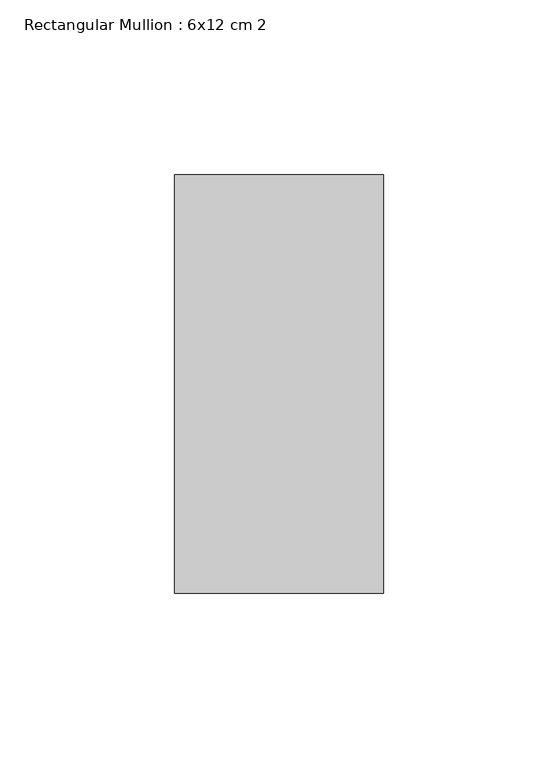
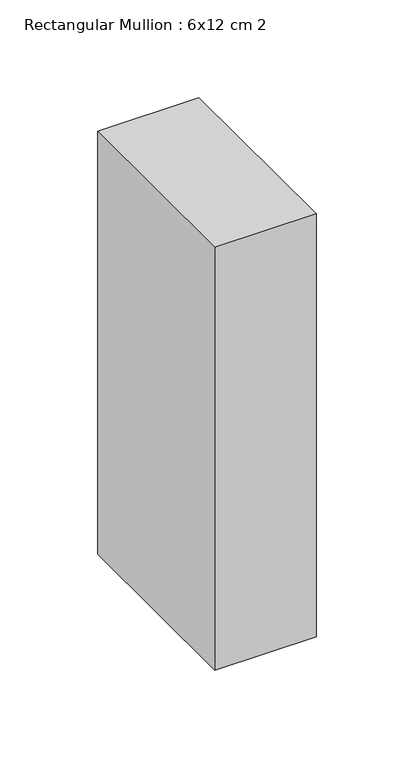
"""IFC4 building model written with IfcOpenShell, lengths in millimetres: member geometry, Rectangular Mullion : 6x12 cm 2."""

from ifc_helpers import new_model, si_unit, frame, origin, place, context, project, spatial, polyline, outline, extrude, source, transform, mapped, element, save


def rectangular_mullion_6x12_cm_2_e0c0a1da(model_context):
    return source(origin(), model_context, "Body", "SweptSolid", [
        extrude(outline(polyline([(0.0, 205.0), (0.0, 85.0), (-60.0, 85.0), (-60.0, 205.0), (0.0, 205.0)])), frame((0.0, 0.0, -264.5978171), z_axis=(0.0, 0.0, 1.0), x_axis=(1.0, 0.0, 0.0)), (0.0, 0.0, 1.0), 264.5978171),
    ])


if __name__ == "__main__":
    model = new_model("IFC4")
    model_context = context("Model", 3, world=origin())
    ifc_project = project(units=[si_unit("LENGTHUNIT", "METRE", prefix="MILLI")], contexts=[model_context])
    site = spatial("IfcSite", under=ifc_project)
    building = spatial("IfcBuilding", under=site)
    placement = place(None, origin())
    rectangular_mullion_6x12_cm_2_shape = rectangular_mullion_6x12_cm_2_e0c0a1da(model_context)
    element("IfcMember", 1, ObjectType="Rectangular Mullion : 6x12 cm 2", at=placement, inside=building, context=model_context, shape_type="MappedRepresentation", body=[
        mapped(rectangular_mullion_6x12_cm_2_shape, transform((0.0, 0.0, 0.0), x_axis=(1.0, 0.0, 0.0), y_axis=(0.0, 1.0, 0.0), z_axis=(0.0, 0.0, 1.0))),
    ])
    save(model, "model.ifc")
